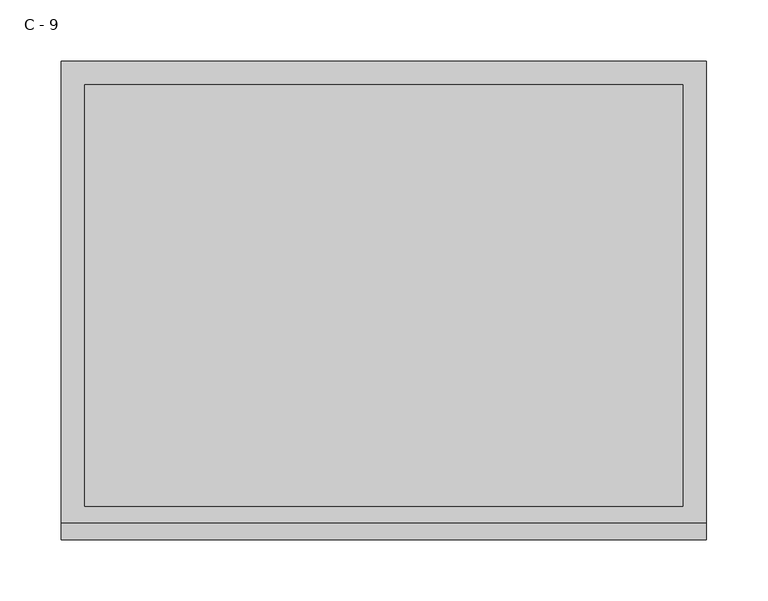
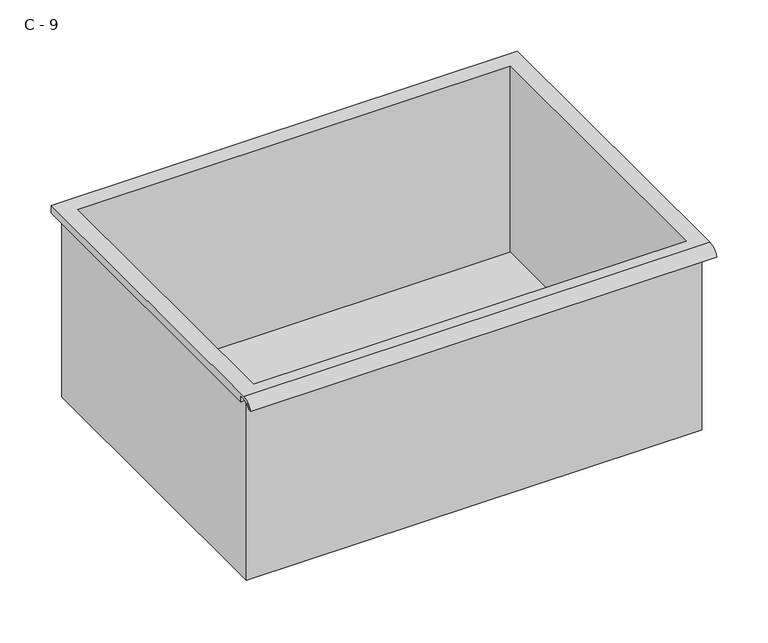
"""IFC4 building model written with IfcOpenShell, lengths in millimetres: furniture geometry, HermanMiller_CoStruc_CO207_Drawer : C - 9."""

from ifc_helpers import new_model, si_unit, frame, origin, place, context, project, spatial, polyline, circle_curve, source, transform, mapped, element, save
from ifc_brep_helpers import plane_surface, cylinder_surface, revolved_surface, advanced_brep


def c_9_d4da432e(model_context):
    return source(origin(), model_context, "Body", "AdvancedBrep", [
        advanced_brep(
        [(-257.1076517, -176.2125, 414.274), (257.2423483, -176.2125, 414.274), (257.2423483, -176.2125, 630.174), (263.5923483, -176.2125, 630.174), (263.5923483, -176.2125, 636.4811341), (-263.4576517, -176.2125, 636.4811341), (-263.4576517, -176.2125, 630.174), (-257.1076517, -176.2125, 630.174), (257.2423483, 185.7375, 414.274), (-257.1076517, 185.7375, 414.274), (-257.1076517, 185.7375, 630.174), (257.2423483, 185.7375, 630.174), (263.5923483, -181.6070544, 639.699), (263.5923483, 195.2625, 639.699), (-263.4576517, 195.2625, 639.699), (-263.4576517, -181.6070544, 639.699), (244.5423483, -168.275, 639.699), (-244.4076517, -168.275, 639.699), (-244.4076517, 176.2125, 639.699), (244.5423483, 176.2125, 639.699), (263.5923483, -195.2625, 630.174), (263.5923483, -191.8280601, 630.174), (263.5923483, -180.4714815, 636.4811341), (263.5923483, 195.2625, 630.174), (-263.4576517, 195.2625, 630.174), (-263.4576517, -180.4714815, 636.4811341), (-263.4576517, -191.8280601, 630.174), (-263.4576517, -195.2625, 630.174), (-244.4076517, -168.275, 417.3001719), (244.5423483, -168.275, 417.3001719), (244.5423483, 176.2125, 417.3001719), (-244.4076517, 176.2125, 417.3001719)],
        [
            (0, 1),
            (1, 2),
            (2, 3),
            (3, 4),
            (4, 5),
            (5, 6),
            (6, 7),
            (7, 0),
            (8, 9),
            (9, 10),
            (10, 11),
            (11, 8),
            (0, 9),
            (8, 1),
            (11, 2),
            (12, 13),
            (13, 14),
            (14, 15),
            (15, 12),
            (16, 17),
            (17, 18),
            (18, 19),
            (19, 16),
            (7, 10),
            (12, 20, circle_curve(frame((263.5923483, -181.6070544, 625.1479859), z_axis=(1.0, 0.0, 0.0), x_axis=(0.0, 1.0, 0.0)), 14.5510141)),
            (20, 21),
            (21, 22, circle_curve(frame((263.5923483, -181.6070544, 625.1479859), z_axis=(-1.0, 0.0, 0.0), x_axis=(0.0, 1.0, 0.0)), 11.3898979)),
            (22, 4),
            (3, 23),
            (23, 13),
            (14, 24),
            (24, 6),
            (5, 25),
            (25, 26, circle_curve(frame((-263.4576517, -181.6070544, 625.1479859), z_axis=(1.0, 0.0, 0.0), x_axis=(0.0, 1.0, 0.0)), 11.3898979)),
            (26, 27),
            (27, 15, circle_curve(frame((-263.4576517, -181.6070544, 625.1479859), z_axis=(-1.0, 0.0, 0.0), x_axis=(0.0, 1.0, 0.0)), 14.5510141)),
            (27, 20),
            (26, 21),
            (25, 22),
            (24, 23),
            (28, 29),
            (29, 30),
            (30, 31),
            (31, 28),
            (28, 17),
            (16, 29),
            (19, 30),
            (18, 31),
        ],
        [
            plane_surface(frame((257.2423483, -176.2125, 414.274), z_axis=(0.0, -1.0, 0.0), x_axis=(1.0, 0.0, 0.0))),
            plane_surface(frame((257.2423483, 185.7375, 414.274), z_axis=(0.0, 1.0, 0.0), x_axis=(-1.0, 0.0, 0.0))),
            plane_surface(frame((-257.1076517, -176.2125, 414.274), z_axis=(0.0, 0.0, -1.0), x_axis=(0.0, 1.0, 0.0))),
            plane_surface(frame((257.2423483, -176.2125, 414.274), z_axis=(1.0, 0.0, 0.0), x_axis=(0.0, 1.0, 0.0))),
            plane_surface(frame((257.2423483, -176.2125, 639.699), z_axis=(0.0, 0.0, 1.0), x_axis=(0.0, 1.0, 0.0))),
            plane_surface(frame((-257.1076517, -176.2125, 639.699), z_axis=(-1.0, 0.0, 0.0), x_axis=(0.0, 1.0, 0.0))),
            plane_surface(frame((263.5923483, 195.2625, 639.699), z_axis=(1.0, 0.0, 0.0), x_axis=(0.0, -1.0, 0.0))),
            plane_surface(frame((-263.4576517, 195.2625, 639.699), z_axis=(-1.0, 0.0, 0.0), x_axis=(0.0, 1.0, 0.0))),
            cylinder_surface(frame((-263.4576517, -181.6070544, 625.1479859), z_axis=(1.0, 0.0, 0.0), x_axis=(0.0, 1.0, 0.0)), 14.5510141),
            plane_surface(frame((263.5923483, -195.2625, 630.174), z_axis=(0.0, -7.054760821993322e-12, -1.0), x_axis=(-1.0, 0.0, 0.0))),
            revolved_surface(polyline([(-263.4576517, -170.21715650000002, 625.1479859), (263.59234829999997, -170.21715650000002, 625.1479859)]), (-263.4576517, -181.6070544, 625.1479859), (-1.0, 0.0, 0.0)),
            plane_surface(frame((263.5923483, -180.4714815, 636.4811341), z_axis=(0.0, -1.7543591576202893e-11, -1.0), x_axis=(-1.0, 0.0, 0.0))),
            plane_surface(frame((263.5923483, -176.2125, 630.174), z_axis=(0.0, 0.0, -1.0), x_axis=(-1.0, 0.0, 0.0))),
            plane_surface(frame((263.5923483, 195.2625, 630.174), z_axis=(0.0, 1.0, 0.0), x_axis=(-1.0, 0.0, 0.0))),
            plane_surface(frame((244.5423483, -168.275, 417.3001719), z_axis=(0.0, 0.0, 1.0), x_axis=(-1.0, 0.0, 0.0))),
            plane_surface(frame((-244.4076517, -168.275, 639.699), z_axis=(0.0, 1.0, 0.0), x_axis=(0.0, 0.0, -1.0))),
            plane_surface(frame((244.5423483, -168.275, 639.699), z_axis=(-1.0, 0.0, 0.0), x_axis=(0.0, 0.0, -1.0))),
            plane_surface(frame((244.5423483, 176.2125, 639.699), z_axis=(0.0, -1.0, 0.0), x_axis=(0.0, 0.0, -1.0))),
            plane_surface(frame((-244.4076517, 176.2125, 639.699), z_axis=(1.0, 0.0, 0.0), x_axis=(0.0, 0.0, -1.0))),
        ],
        [
            (0, [[1, 2, 3, 4, 5, 6, 7, 8]]),
            (1, [[9, 10, 11, 12]]),
            (2, [[-1, 13, -9, 14]]),
            (3, [[-14, -12, 15, -2]]),
            (4, [[16, 17, 18, 19], [20, 21, 22, 23]]),
            (5, [[-13, -8, 24, -10]]),
            (6, [[-16, 25, 26, 27, 28, -4, 29, 30]]),
            (7, [[31, 32, -6, 33, 34, 35, 36, -18]]),
            (8, [[-25, -19, -36, 37]]),
            (9, [[-26, -37, -35, 38]]),
            (10, [[-27, -38, -34, 39]]),
            (11, [[-28, -39, -33, -5]]),
            (12, [[-29, -3, -15, -11, -24, -7, -32, 40]]),
            (13, [[-30, -40, -31, -17]]),
            (14, [[41, 42, 43, 44]]),
            (15, [[-41, 45, -20, 46]]),
            (16, [[-42, -46, -23, 47]]),
            (17, [[-43, -47, -22, 48]]),
            (18, [[-44, -48, -21, -45]]),
        ],
    ),
    ])


if __name__ == "__main__":
    model = new_model("IFC4")
    model_context = context("Model", 3, world=origin())
    ifc_project = project(units=[si_unit("LENGTHUNIT", "METRE", prefix="MILLI")], contexts=[model_context])
    site = spatial("IfcSite", under=ifc_project)
    building = spatial("IfcBuilding", under=site)
    placement = place(None, origin())
    c_9_shape = c_9_d4da432e(model_context)
    element("IfcFurniture", 1, ObjectType="HermanMiller_CoStruc_CO207_Drawer : C - 9", at=placement, inside=building, context=model_context, shape_type="MappedRepresentation", body=[
        mapped(c_9_shape, transform((0.0, 0.0, 0.0), x_axis=(1.0, 0.0, 0.0), y_axis=(0.0, 1.0, 0.0), z_axis=(0.0, 0.0, 1.0))),
    ])
    save(model, "model.ifc")
